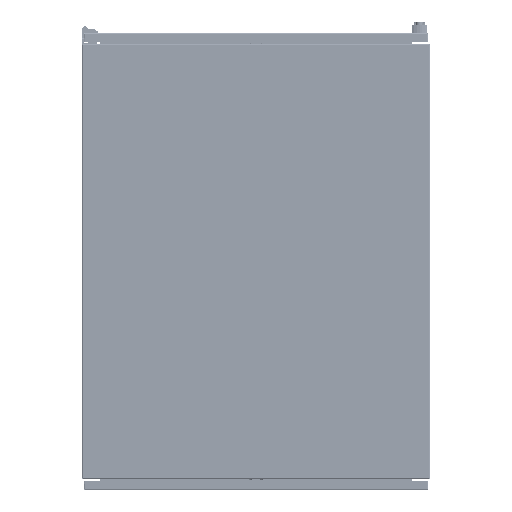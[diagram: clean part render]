
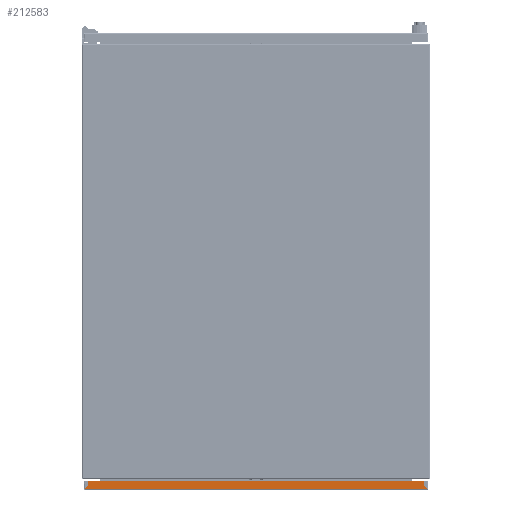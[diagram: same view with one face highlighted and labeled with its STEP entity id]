
A CAD part, front view. The second image highlights one B-rep face of the part: STEP entity #212583.
In plain terms, the highlighted planar face has unit normal (0, -1, 0).
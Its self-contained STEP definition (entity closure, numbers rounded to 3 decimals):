
#212389 = EDGE_CURVE ( 'NONE', #212395, #212398, #248083, .T. ) ;
#212395 = VERTEX_POINT ( 'NONE', #248061 ) ;
#212398 = VERTEX_POINT ( 'NONE', #248045 ) ;
#212583 = ADVANCED_FACE ( 'NONE', ( #248788 ), #248718, .F. ) ;
#212585 = EDGE_LOOP ( 'NONE', ( #212593, #212812, #212824, #212845, #212675, #212692 ) ) ;
#212593 = ORIENTED_EDGE ( 'NONE', *, *, #212600, .F. ) ;
#212600 = EDGE_CURVE ( 'NONE', #212395, #212606, #248866, .T. ) ;
#212606 = VERTEX_POINT ( 'NONE', #248852 ) ;
#212675 = ORIENTED_EDGE ( 'NONE', *, *, #212683, .F. ) ;
#212683 = EDGE_CURVE ( 'NONE', #212686, #212864, #249024, .T. ) ;
#212686 = VERTEX_POINT ( 'NONE', #249015 ) ;
#212692 = ORIENTED_EDGE ( 'NONE', *, *, #212698, .F. ) ;
#212698 = EDGE_CURVE ( 'NONE', #212606, #212686, #249195, .T. ) ;
#212812 = ORIENTED_EDGE ( 'NONE', *, *, #212389, .T. ) ;
#212824 = ORIENTED_EDGE ( 'NONE', *, *, #212831, .T. ) ;
#212831 = EDGE_CURVE ( 'NONE', #212398, #212836, #249605, .T. ) ;
#212836 = VERTEX_POINT ( 'NONE', #249590 ) ;
#212845 = ORIENTED_EDGE ( 'NONE', *, *, #212854, .T. ) ;
#212854 = EDGE_CURVE ( 'NONE', #212836, #212864, #249688, .T. ) ;
#212864 = VERTEX_POINT ( 'NONE', #249674 ) ;
#248045 = CARTESIAN_POINT ( 'NONE',  ( -386.083, 21.5, -505. ) ) ;
#248061 = CARTESIAN_POINT ( 'NONE',  ( 386.383, 21.5, -505. ) ) ;
#248063 = DIRECTION ( 'NONE',  ( -1., 0., 0. ) ) ;
#248064 = VECTOR ( 'NONE', #248063, 1000. ) ;
#248066 = CARTESIAN_POINT ( 'NONE',  ( 10281.15, 21.5, -505. ) ) ;
#248083 = LINE ( 'NONE', #248066, #248064 ) ;
#248702 = DIRECTION ( 'NONE',  ( 0., 0., -1. ) ) ;
#248704 = DIRECTION ( 'NONE',  ( 0., 1., 0. ) ) ;
#248707 = CARTESIAN_POINT ( 'NONE',  ( 10281.15, 21.5, -505. ) ) ;
#248709 = AXIS2_PLACEMENT_3D ( 'NONE', #248707, #248704, #248702 ) ;
#248718 = PLANE ( 'NONE',  #248709 ) ;
#248788 = FACE_OUTER_BOUND ( 'NONE', #212585, .T. ) ;
#248852 = CARTESIAN_POINT ( 'NONE',  ( 386.383, 21.5, -514.81 ) ) ;
#248860 = DIRECTION ( 'NONE',  ( 0., 0., -1. ) ) ;
#248862 = VECTOR ( 'NONE', #248860, 1000. ) ;
#248864 = CARTESIAN_POINT ( 'NONE',  ( 386.383, 21.5, -505. ) ) ;
#248866 = LINE ( 'NONE', #248864, #248862 ) ;
#249015 = CARTESIAN_POINT ( 'NONE',  ( 394.473, 21.5, -522.9 ) ) ;
#249020 = DIRECTION ( 'NONE',  ( -1., 0., 0. ) ) ;
#249021 = VECTOR ( 'NONE', #249020, 1000. ) ;
#249023 = CARTESIAN_POINT ( 'NONE',  ( 10281.15, 21.5, -522.9 ) ) ;
#249024 = LINE ( 'NONE', #249023, #249021 ) ;
#249188 = DIRECTION ( 'NONE',  ( 0.707, 0., -0.707 ) ) ;
#249190 = VECTOR ( 'NONE', #249188, 1000. ) ;
#249193 = CARTESIAN_POINT ( 'NONE',  ( 386.383, 21.5, -514.81 ) ) ;
#249195 = LINE ( 'NONE', #249193, #249190 ) ;
#249590 = CARTESIAN_POINT ( 'NONE',  ( -386.083, 21.5, -514.81 ) ) ;
#249596 = DIRECTION ( 'NONE',  ( 0., 0., -1. ) ) ;
#249598 = VECTOR ( 'NONE', #249596, 1000. ) ;
#249601 = CARTESIAN_POINT ( 'NONE',  ( -386.083, 21.5, -505. ) ) ;
#249605 = LINE ( 'NONE', #249601, #249598 ) ;
#249674 = CARTESIAN_POINT ( 'NONE',  ( -394.173, 21.5, -522.9 ) ) ;
#249681 = DIRECTION ( 'NONE',  ( -0.707, 0., -0.707 ) ) ;
#249683 = VECTOR ( 'NONE', #249681, 1000. ) ;
#249685 = CARTESIAN_POINT ( 'NONE',  ( -386.083, 21.5, -514.81 ) ) ;
#249688 = LINE ( 'NONE', #249685, #249683 ) ;
